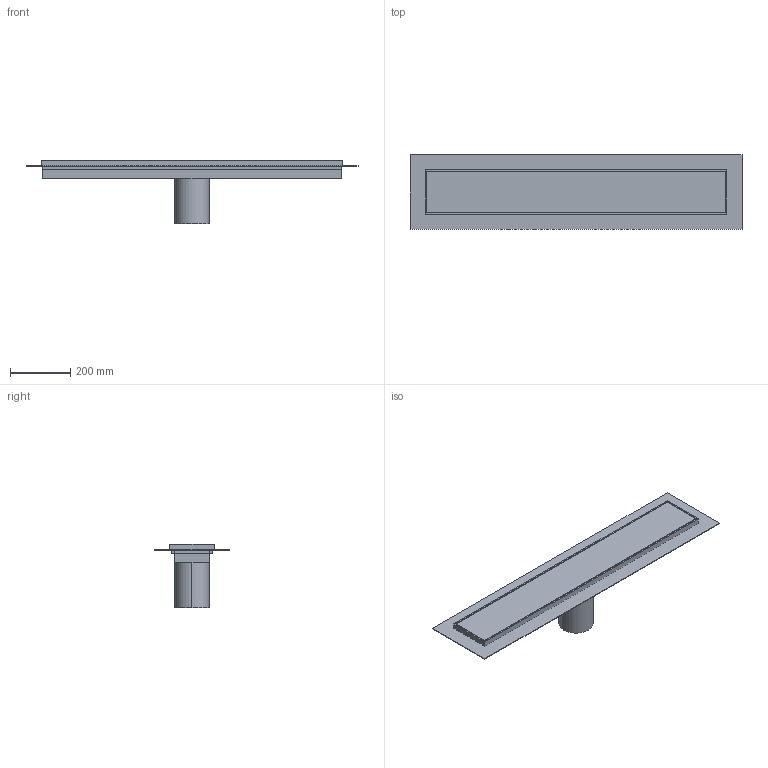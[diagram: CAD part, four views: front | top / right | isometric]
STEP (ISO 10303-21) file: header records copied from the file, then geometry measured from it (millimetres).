
FILE_DESCRIPTION(/* description */ (''),/* implementation_level */ '2;1');
FILE_NAME(/* name */ 'E:\Workspace\resitec\Packs\Kategorie\Entwässerungsrinne\STP\RS770K.045Entwässerungsrinne Rand 4.5mm-4xKR50.s.ipt.stp',/* time_stamp */ '2020-10-04T20:55:51+02:00',/* author */ ('ndmes'),/* organization */ (''),/* preprocessor_version */ 'ST-DEVELOPER v18.1',/* originating_system */ 'Autodesk Inventor 2021',/* authorisation */ '');
FILE_SCHEMA (('AUTOMOTIVE_DESIGN { 1 0 10303 214 3 1 1 }'));
Length unit declared in the file: millimetre
Products named in the file (1): RS770K.045Entwässerungsrinne Rand 4.5mm-4xKR50.s
Bounding box: 1100 x 246 x 210 mm (x, y, z)
Volume: 11141987.3 mm3; surface area: 1659114 mm2
Topology: 6 solids, 6 shells, 39 faces, 81 edges, 54 vertices
Faces by surface type: plane 37, cylinder 2
Entity records: 1059 total; most frequent: CARTESIAN_POINT 175, DIRECTION 165, ORIENTED_EDGE 162, EDGE_CURVE 81, LINE 77, VECTOR 77, VERTEX_POINT 54, AXIS2_PLACEMENT_3D 44
